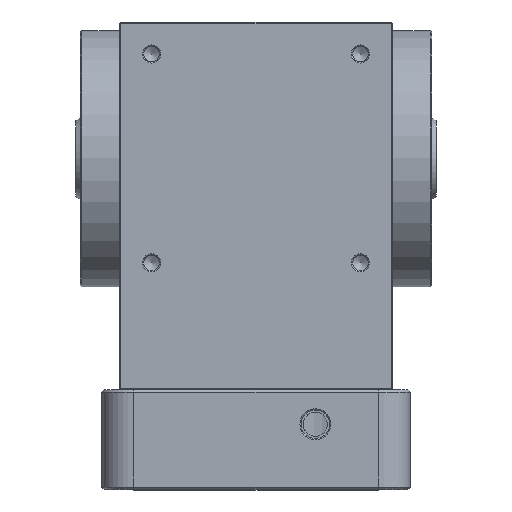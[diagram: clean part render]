
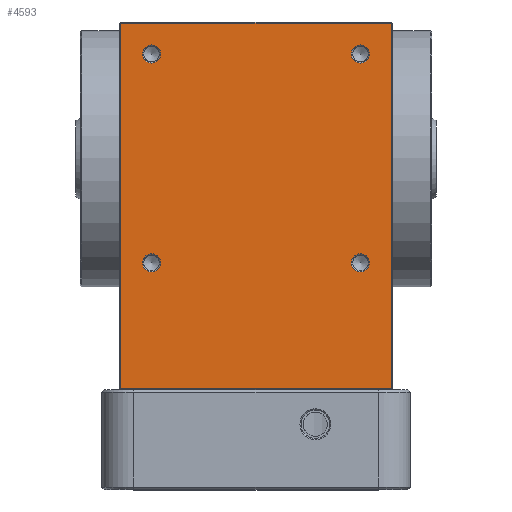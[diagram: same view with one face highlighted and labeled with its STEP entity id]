
A CAD part, top view. The second image highlights one B-rep face of the part: STEP entity #4593.
In plain terms, the highlighted planar face has unit normal (0, 0, 1).
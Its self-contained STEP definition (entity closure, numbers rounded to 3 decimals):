
#3415=CARTESIAN_POINT('',(57.,-97.,57.5));
#3416=VERTEX_POINT('',#3415);
#3423=CARTESIAN_POINT('',(-57.,-97.,57.5));
#3424=VERTEX_POINT('',#3423);
#3425=CARTESIAN_POINT('',(57.,-97.,57.5));
#3426=DIRECTION('',(-1.0,0.0,0.0));
#3427=VECTOR('',#3426,114.);
#3428=LINE('',#3425,#3427);
#3429=EDGE_CURVE('',#3416,#3424,#3428,.T.);
#3535=CARTESIAN_POINT('',(-57.,57.,57.5));
#3536=VERTEX_POINT('',#3535);
#3537=CARTESIAN_POINT('',(-57.,57.,57.5));
#3538=DIRECTION('',(0.0,-1.0,0.0));
#3539=VECTOR('',#3538,154.0);
#3540=LINE('',#3537,#3539);
#3541=EDGE_CURVE('',#3536,#3424,#3540,.T.);
#3567=CARTESIAN_POINT('',(57.,57.,57.5));
#3568=VERTEX_POINT('',#3567);
#3575=CARTESIAN_POINT('',(57.,57.,57.5));
#3576=DIRECTION('',(0.0,-1.0,0.0));
#3577=VECTOR('',#3576,154.0);
#3578=LINE('',#3575,#3577);
#3579=EDGE_CURVE('',#3568,#3416,#3578,.T.);
#3729=CARTESIAN_POINT('',(-57.,57.,57.5));
#3730=DIRECTION('',(1.0,0.0,0.0));
#3731=VECTOR('',#3730,114.0);
#3732=LINE('',#3729,#3731);
#3733=EDGE_CURVE('',#3536,#3568,#3732,.T.);
#4534=CARTESIAN_POINT('',(40.177,-44.,57.5));
#4535=VERTEX_POINT('',#4534);
#4536=CARTESIAN_POINT('',(44.0,-44.,57.5));
#4537=DIRECTION('',(0.0,0.0,1.0));
#4538=DIRECTION('',(1.0,0.0,0.0));
#4539=AXIS2_PLACEMENT_3D('',#4536,#4537,#4538);
#4540=CIRCLE('',#4539,3.823);
#4541=EDGE_CURVE('',#4535,#4535,#4540,.T.);
#4546=CARTESIAN_POINT('',(0.,0.,57.5));
#4547=DIRECTION('',(0.0,0.0,1.0));
#4548=DIRECTION('',(1.0,0.0,0.0));
#4549=AXIS2_PLACEMENT_3D('',#4546,#4547,#4548);
#4550=PLANE('',#4549);
#4551=ORIENTED_EDGE('',*,*,#3429,.F.);
#4552=ORIENTED_EDGE('',*,*,#3579,.F.);
#4553=ORIENTED_EDGE('',*,*,#3733,.F.);
#4554=ORIENTED_EDGE('',*,*,#3541,.T.);
#4555=EDGE_LOOP('',(#4551,#4552,#4553,#4554));
#4556=FACE_OUTER_BOUND('',#4555,.T.);
#4557=CARTESIAN_POINT('',(40.177,44.,57.5));
#4558=VERTEX_POINT('',#4557);
#4559=CARTESIAN_POINT('',(44.,44.,57.5));
#4560=DIRECTION('',(0.0,0.0,1.0));
#4561=DIRECTION('',(1.0,0.0,0.0));
#4562=AXIS2_PLACEMENT_3D('',#4559,#4560,#4561);
#4563=CIRCLE('',#4562,3.823);
#4564=EDGE_CURVE('',#4558,#4558,#4563,.T.);
#4565=ORIENTED_EDGE('',*,*,#4564,.F.);
#4566=EDGE_LOOP('',(#4565));
#4567=FACE_BOUND('',#4566,.T.);
#4568=CARTESIAN_POINT('',(-40.177,44.,57.5));
#4569=VERTEX_POINT('',#4568);
#4570=CARTESIAN_POINT('',(-44.0,44.,57.5));
#4571=DIRECTION('',(0.0,0.0,1.0));
#4572=DIRECTION('',(-1.0,0.0,0.0));
#4573=AXIS2_PLACEMENT_3D('',#4570,#4571,#4572);
#4574=CIRCLE('',#4573,3.823);
#4575=EDGE_CURVE('',#4569,#4569,#4574,.T.);
#4576=ORIENTED_EDGE('',*,*,#4575,.F.);
#4577=EDGE_LOOP('',(#4576));
#4578=FACE_BOUND('',#4577,.T.);
#4579=CARTESIAN_POINT('',(-40.177,-44.,57.5));
#4580=VERTEX_POINT('',#4579);
#4581=CARTESIAN_POINT('',(-44.0,-44.,57.5));
#4582=DIRECTION('',(0.0,0.0,1.0));
#4583=DIRECTION('',(-1.0,0.0,0.0));
#4584=AXIS2_PLACEMENT_3D('',#4581,#4582,#4583);
#4585=CIRCLE('',#4584,3.823);
#4586=EDGE_CURVE('',#4580,#4580,#4585,.T.);
#4587=ORIENTED_EDGE('',*,*,#4586,.F.);
#4588=EDGE_LOOP('',(#4587));
#4589=FACE_BOUND('',#4588,.T.);
#4590=ORIENTED_EDGE('',*,*,#4541,.F.);
#4591=EDGE_LOOP('',(#4590));
#4592=FACE_BOUND('',#4591,.T.);
#4593=ADVANCED_FACE('',(#4556,#4567,#4578,#4589,#4592),#4550,.T.);
